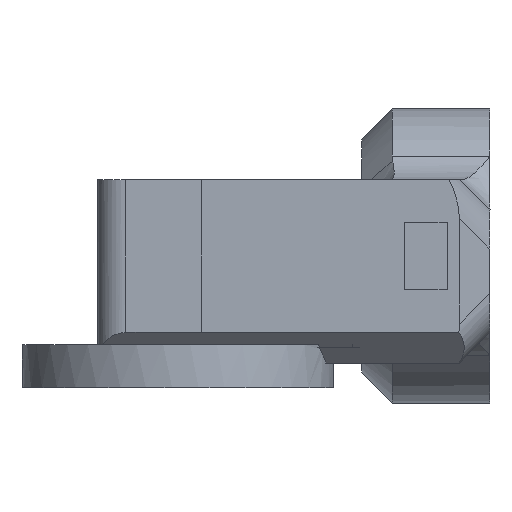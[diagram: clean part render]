
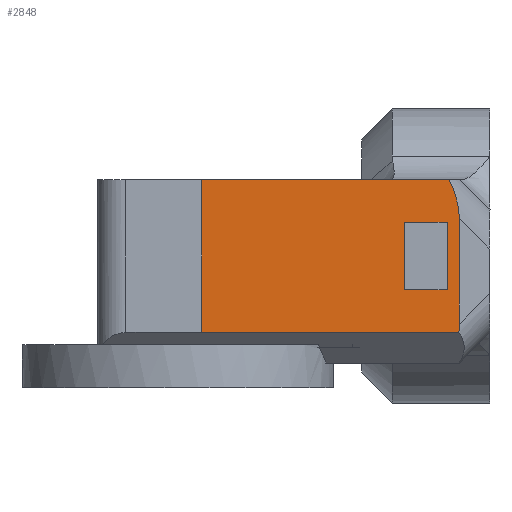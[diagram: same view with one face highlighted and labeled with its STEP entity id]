
A CAD part, left-side view. The second image highlights one B-rep face of the part: STEP entity #2848.
In plain terms, the highlighted planar face has unit normal (-1, 0, 0).
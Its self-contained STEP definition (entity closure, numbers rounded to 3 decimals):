
#91=FACE_BOUND('',#467,.T.);
#128=ELLIPSE('',#3042,15.588,9.);
#130=ELLIPSE('',#3046,15.588,9.);
#229=PLANE('',#3045);
#308=FACE_OUTER_BOUND('',#466,.T.);
#466=EDGE_LOOP('',(#2095,#2096,#2097,#2098,#2099,#2100));
#467=EDGE_LOOP('',(#2101,#2102,#2103,#2104));
#617=LINE('',#4160,#841);
#625=LINE('',#4180,#849);
#640=LINE('',#4244,#864);
#649=LINE('',#4272,#873);
#663=LINE('',#4322,#887);
#680=LINE('',#4654,#904);
#681=LINE('',#4658,#905);
#682=LINE('',#4659,#906);
#841=VECTOR('',#3312,10.);
#849=VECTOR('',#3326,10.);
#864=VECTOR('',#3357,10.);
#873=VECTOR('',#3378,10.);
#887=VECTOR('',#3412,10.);
#904=VECTOR('',#3479,10.);
#905=VECTOR('',#3484,10.);
#906=VECTOR('',#3485,10.);
#1186=VERTEX_POINT('',#4157);
#1187=VERTEX_POINT('',#4159);
#1196=VERTEX_POINT('',#4178);
#1215=VERTEX_POINT('',#4242);
#1227=VERTEX_POINT('',#4269);
#1228=VERTEX_POINT('',#4271);
#1274=VERTEX_POINT('',#4643);
#1275=VERTEX_POINT('',#4645);
#1277=VERTEX_POINT('',#4652);
#1278=VERTEX_POINT('',#4657);
#1477=EDGE_CURVE('',#1186,#1187,#617,.T.);
#1487=EDGE_CURVE('',#1196,#1186,#625,.T.);
#1509=EDGE_CURVE('',#1215,#1196,#640,.T.);
#1523=EDGE_CURVE('',#1228,#1227,#649,.T.);
#1546=EDGE_CURVE('',#1187,#1215,#663,.T.);
#1589=EDGE_CURVE('',#1275,#1274,#128,.T.);
#1594=EDGE_CURVE('',#1274,#1277,#680,.T.);
#1595=EDGE_CURVE('',#1277,#1228,#130,.T.);
#1596=EDGE_CURVE('',#1278,#1227,#681,.T.);
#1597=EDGE_CURVE('',#1278,#1275,#682,.T.);
#2095=ORIENTED_EDGE('',*,*,#1589,.T.);
#2096=ORIENTED_EDGE('',*,*,#1594,.T.);
#2097=ORIENTED_EDGE('',*,*,#1595,.T.);
#2098=ORIENTED_EDGE('',*,*,#1523,.T.);
#2099=ORIENTED_EDGE('',*,*,#1596,.F.);
#2100=ORIENTED_EDGE('',*,*,#1597,.T.);
#2101=ORIENTED_EDGE('',*,*,#1546,.F.);
#2102=ORIENTED_EDGE('',*,*,#1477,.F.);
#2103=ORIENTED_EDGE('',*,*,#1487,.F.);
#2104=ORIENTED_EDGE('',*,*,#1509,.F.);
#2848=ADVANCED_FACE('',(#308,#91),#229,.F.);
#3042=AXIS2_PLACEMENT_3D('',#4646,#3470,#3471);
#3045=AXIS2_PLACEMENT_3D('',#4655,#3480,#3481);
#3046=AXIS2_PLACEMENT_3D('',#4656,#3482,#3483);
#3312=DIRECTION('',(0.,0.,-1.));
#3326=DIRECTION('',(0.,1.,0.));
#3357=DIRECTION('',(0.,0.,1.));
#3378=DIRECTION('',(0.,1.,0.));
#3412=DIRECTION('',(0.,-1.,0.));
#3470=DIRECTION('center_axis',(-1.,0.,0.));
#3471=DIRECTION('ref_axis',(0.,-0.707,0.707));
#3479=DIRECTION('',(0.,0.,1.));
#3480=DIRECTION('center_axis',(1.,0.,0.));
#3481=DIRECTION('ref_axis',(0.,1.,0.));
#3482=DIRECTION('center_axis',(-1.,0.,0.));
#3483=DIRECTION('ref_axis',(0.,-0.707,-0.707));
#3484=DIRECTION('',(0.,0.,1.));
#3485=DIRECTION('',(0.,-1.,0.));
#4157=CARTESIAN_POINT('',(-136.232,-29.9,5.717));
#4159=CARTESIAN_POINT('',(-136.232,-29.9,-5.283));
#4160=CARTESIAN_POINT('',(-136.232,-29.9,-11.283));
#4178=CARTESIAN_POINT('',(-136.232,-36.9,5.717));
#4180=CARTESIAN_POINT('',(-136.232,-25.658,5.717));
#4242=CARTESIAN_POINT('',(-136.232,-36.9,-5.283));
#4244=CARTESIAN_POINT('',(-136.232,-36.9,-5.783));
#4269=CARTESIAN_POINT('',(-136.232,3.219,12.717));
#4271=CARTESIAN_POINT('',(-136.232,-37.195,12.717));
#4272=CARTESIAN_POINT('',(-136.232,-26.017,12.717));
#4322=CARTESIAN_POINT('',(-136.232,-29.158,-5.283));
#4643=CARTESIAN_POINT('',(-136.232,-38.9,-10.919));
#4645=CARTESIAN_POINT('',(-136.232,-38.809,-12.283));
#4646=CARTESIAN_POINT('Origin',(-136.232,-26.172,-17.283));
#4652=CARTESIAN_POINT('',(-136.232,-38.9,6.353));
#4654=CARTESIAN_POINT('',(-136.232,-38.9,-17.283));
#4655=CARTESIAN_POINT('Origin',(-136.232,-21.417,-17.283));
#4656=CARTESIAN_POINT('Origin',(-136.232,-26.172,12.717));
#4657=CARTESIAN_POINT('',(-136.232,3.219,-12.283));
#4658=CARTESIAN_POINT('',(-136.232,3.219,-17.283));
#4659=CARTESIAN_POINT('',(-136.232,-12.158,-12.283));
